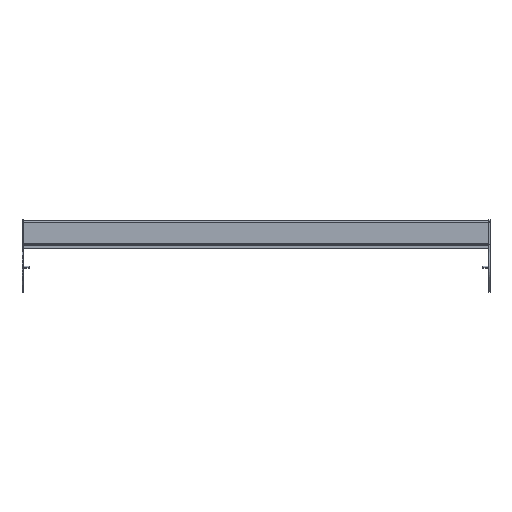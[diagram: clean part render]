
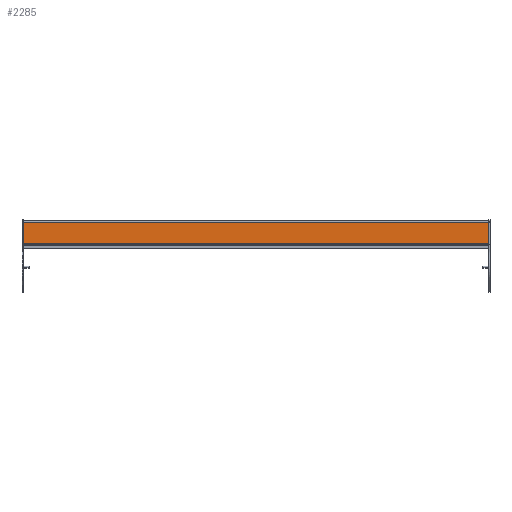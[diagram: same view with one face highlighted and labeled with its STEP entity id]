
A CAD part, top view. The second image highlights one B-rep face of the part: STEP entity #2285.
In plain terms, the highlighted planar face has unit normal (0, 0, 1) as drawn and (1, 0, 0) by its records, which use the part's own axes.
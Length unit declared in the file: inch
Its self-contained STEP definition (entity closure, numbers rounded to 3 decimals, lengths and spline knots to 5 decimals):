
#197=DIRECTION('',(0.,1.,0.));
#198=VECTOR('',#197,1.81445);
#199=CARTESIAN_POINT('',(0.683,-0.84545,-20.118));
#200=LINE('',#199,#198);
#303=DIRECTION('',(0.,1.,0.));
#304=VECTOR('',#303,1.81445);
#305=CARTESIAN_POINT('',(0.683,-0.84545,20.118));
#306=LINE('',#305,#304);
#646=DIRECTION('',(0.,0.,1.));
#647=VECTOR('',#646,40.236);
#648=CARTESIAN_POINT('',(0.683,0.969,-20.118));
#649=LINE('',#648,#647);
#659=DIRECTION('',(0.,0.,-1.));
#660=VECTOR('',#659,40.236);
#661=CARTESIAN_POINT('',(0.683,-0.84545,20.118));
#662=LINE('',#661,#660);
#1270=CARTESIAN_POINT('',(0.683,-0.84545,-20.118));
#1271=CARTESIAN_POINT('',(0.683,0.969,-20.118));
#1272=VERTEX_POINT('',#1270);
#1273=VERTEX_POINT('',#1271);
#1274=CARTESIAN_POINT('',(0.683,-0.84545,20.118));
#1275=CARTESIAN_POINT('',(0.683,0.969,20.118));
#1276=VERTEX_POINT('',#1274);
#1277=VERTEX_POINT('',#1275);
#2273=CARTESIAN_POINT('',(0.683,-0.86334,-20.118));
#2274=DIRECTION('',(1.,0.,0.));
#2275=DIRECTION('',(0.,1.,0.));
#2276=AXIS2_PLACEMENT_3D('',#2273,#2274,#2275);
#2277=PLANE('',#2276);
#2278=ORIENTED_EDGE('',*,*,#1631,.F.);
#2280=ORIENTED_EDGE('',*,*,#2279,.F.);
#2281=ORIENTED_EDGE('',*,*,#1734,.T.);
#2282=ORIENTED_EDGE('',*,*,#2266,.F.);
#2283=EDGE_LOOP('',(#2278,#2280,#2281,#2282));
#2284=FACE_OUTER_BOUND('',#2283,.F.);
#1631=EDGE_CURVE('',#1272,#1273,#200,.T.);
#1734=EDGE_CURVE('',#1276,#1277,#306,.T.);
#2266=EDGE_CURVE('',#1273,#1277,#649,.T.);
#2279=EDGE_CURVE('',#1276,#1272,#662,.T.);
#2285=ADVANCED_FACE('',(#2284),#2277,.T.);
